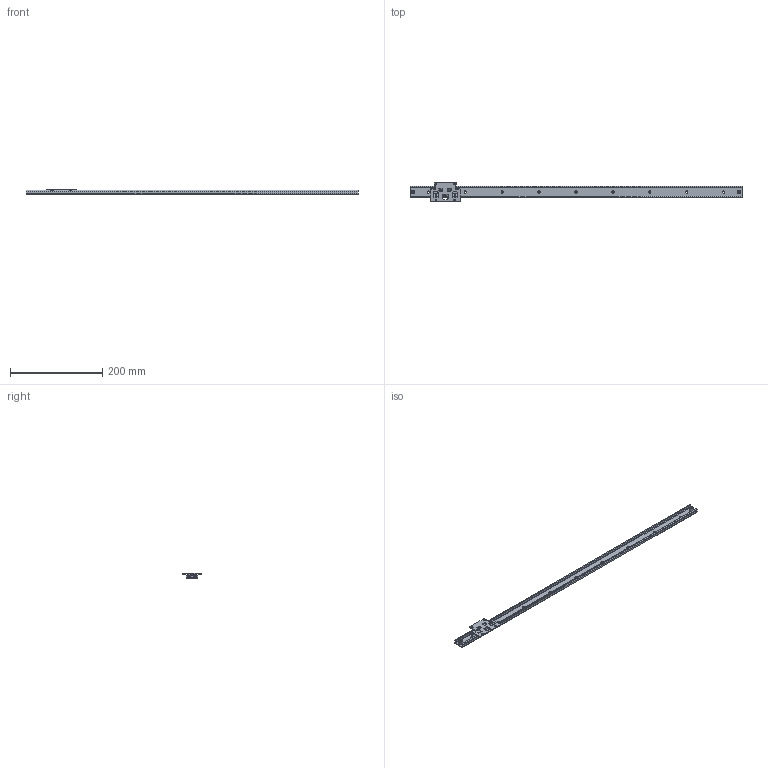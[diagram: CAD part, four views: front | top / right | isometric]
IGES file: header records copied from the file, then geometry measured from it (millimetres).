
Global section: file name:  ; native system: Kubotek KeyCreator; preprocessor: KCM Version 1.1.28; author: KeyCreator•p{ž; organization: Self; date: 20160805.054450; units: millimetre
Bounding box: 720 x 42 x 12 mm (x, y, z)
Surface area: 67584.6 mm2 (no closed solid volume)
Topology: 0 solids, 0 shells, 442 faces, 2064 edges, 1909 vertices
Faces by surface type: revolution 250, plane 192
